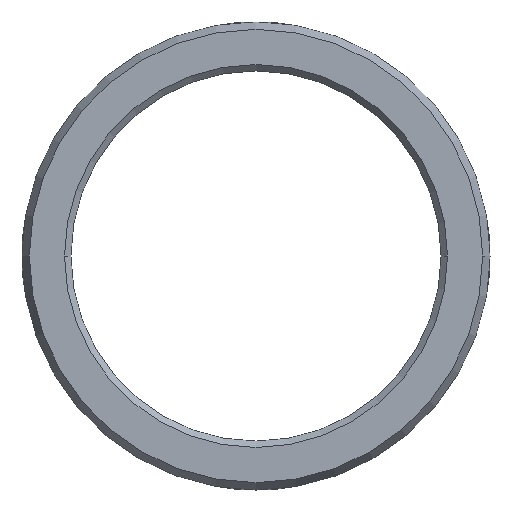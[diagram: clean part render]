
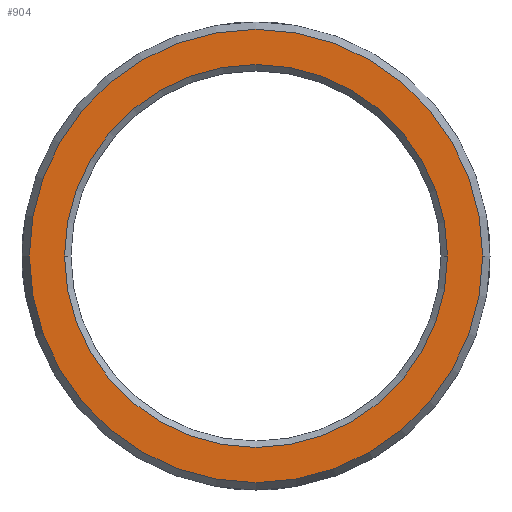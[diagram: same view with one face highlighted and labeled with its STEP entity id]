
A CAD part, front view. The second image highlights one B-rep face of the part: STEP entity #904.
In plain terms, the highlighted planar face has unit normal (0, -1, 0).
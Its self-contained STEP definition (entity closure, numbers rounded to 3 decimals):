
#459=CARTESIAN_POINT('',(0.,-5.,0.));
#460=DIRECTION('',(0.,-1.,0.));
#461=DIRECTION('',(-1.,0.,0.));
#462=AXIS2_PLACEMENT_3D('',#459,#460,#461);
#464=CARTESIAN_POINT('',(0.,-5.,0.));
#465=DIRECTION('',(0.,1.,0.));
#466=DIRECTION('',(-1.,0.,0.));
#467=AXIS2_PLACEMENT_3D('',#464,#465,#466);
#469=CARTESIAN_POINT('',(0.,-5.,0.));
#470=DIRECTION('',(0.,1.,0.));
#471=DIRECTION('',(-1.,0.,0.));
#472=AXIS2_PLACEMENT_3D('',#469,#470,#471);
#482=CARTESIAN_POINT('',(0.,-5.,0.));
#483=DIRECTION('',(0.,-1.,0.));
#484=DIRECTION('',(-1.,0.,0.));
#485=AXIS2_PLACEMENT_3D('',#482,#483,#484);
#586=CARTESIAN_POINT('',(-26.634,-5.,0.));
#588=VERTEX_POINT('',#586);
#589=CARTESIAN_POINT('',(-22.5,-5.,0.));
#591=VERTEX_POINT('',#589);
#602=CARTESIAN_POINT('',(26.634,-5.,0.));
#604=VERTEX_POINT('',#602);
#605=CARTESIAN_POINT('',(22.5,-5.,0.));
#607=VERTEX_POINT('',#605);
#889=CARTESIAN_POINT('',(0.,-5.,0.));
#890=DIRECTION('',(0.,1.,0.));
#891=DIRECTION('',(1.,0.,0.));
#892=AXIS2_PLACEMENT_3D('',#889,#890,#891);
#893=PLANE('',#892);
#894=ORIENTED_EDGE('',*,*,#882,.F.);
#895=ORIENTED_EDGE('',*,*,#871,.T.);
#896=EDGE_LOOP('',(#894,#895));
#897=FACE_OUTER_BOUND('',#896,.F.);
#899=ORIENTED_EDGE('',*,*,#898,.F.);
#901=ORIENTED_EDGE('',*,*,#900,.T.);
#902=EDGE_LOOP('',(#899,#901));
#903=FACE_BOUND('',#902,.F.);
#904=ADVANCED_FACE('',(#897,#903),#893,.F.);
#463=CIRCLE('',#462,26.634);
#468=CIRCLE('',#467,26.634);
#473=CIRCLE('',#472,22.5);
#486=CIRCLE('',#485,22.5);
#871=EDGE_CURVE('',#588,#604,#468,.T.);
#882=EDGE_CURVE('',#588,#604,#463,.T.);
#898=EDGE_CURVE('',#591,#607,#473,.T.);
#900=EDGE_CURVE('',#591,#607,#486,.T.);
